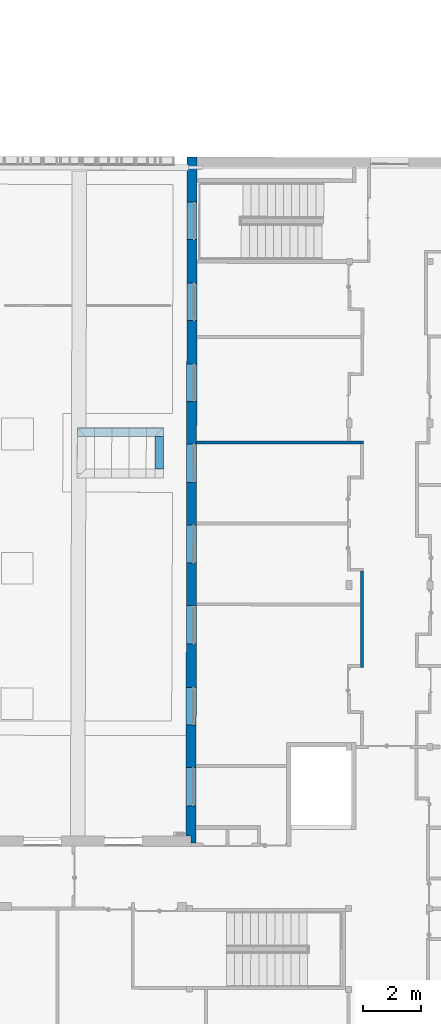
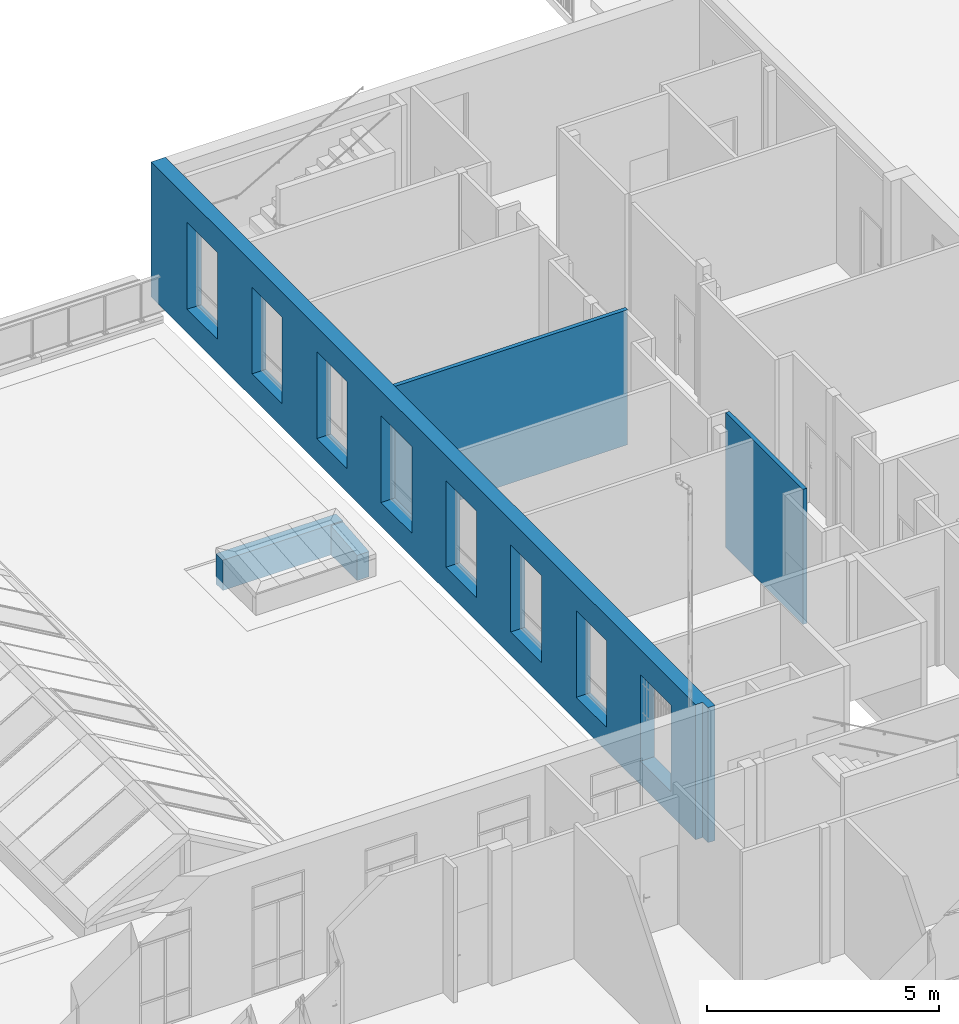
# One storey, part 79 of 101: 5 walls, 8 openings.
"""IFC2X3 building model written with IfcOpenShell, lengths in metres."""

import ifcopenshell
import ifcopenshell.guid

model = None  # the IFC model being written
_history = None  # IfcOwnerHistory: only IFC2X3 demands one
_inside = {}  # id of a spatial element -> (the spatial element, [elements in it])
_under = {}  # id of a project, library or spatial element -> (it, [spatial elements below it])
_declared = {}  # id of a project -> (the project, [libraries it declares])
_typed = {}  # id of a type object -> (the type object, [elements of that type])
_made_of = {}  # id of a material, layer set ... -> (it, [elements and type objects made of it])


def new_model(schema):
    """Start an empty IFC model of exactly this schema.

    Asked for "IFC4X3", IfcOpenShell would pick the latest addendum, in which some entities
    have other attributes; the version numbers below select the first issue.
    IFC2X3 requires an IfcOwnerHistory on every rooted entity: one is made here for all.
    """
    global model, _history
    if schema == "IFC4X3":
        model = ifcopenshell.file(schema_version=(4, 3, 0, 0))
    else:
        model = ifcopenshell.file(schema=schema)
    _inside.clear()
    _under.clear()
    _declared.clear()
    _typed.clear()
    _made_of.clear()
    _history = None
    if model.schema == "IFC2X3":
        org = make("IfcOrganization", Name="unknown")
        user = make(
            "IfcPersonAndOrganization",
            ThePerson=make("IfcPerson", FamilyName="unknown"),
            TheOrganization=org,
        )
        app = make(
            "IfcApplication",
            ApplicationDeveloper=org,
            Version="unknown",
            ApplicationFullName="unknown",
            ApplicationIdentifier="unknown",
        )
        _history = make(
            "IfcOwnerHistory",
            OwningUser=user,
            OwningApplication=app,
            ChangeAction="ADDED",
            CreationDate=0,
        )
    return model


def make(cls, **values):
    """One entity of the class cls with the attributes given. An attribute that is None is left unset."""
    return model.create_entity(
        cls, **{name: value for name, value in values.items() if value is not None}
    )


def entity(cls, *values):
    """Any entity or typed value of the class cls, its attributes in the order of the schema. None: left unset."""
    e = model.create_entity(cls)
    for i, value in enumerate(values):
        if value is not None:
            e[i] = value
    return e


def rooted(cls, **values):
    """An entity with a GlobalId (a new one), such as an element, a storey or a relation."""
    return make(cls, GlobalId=ifcopenshell.guid.new(), OwnerHistory=_history, **values)


def si_unit(unit_type, name, prefix=None):
    """IfcSIUnit, for example si_unit("LENGTHUNIT", "METRE", prefix="MILLI")."""
    return make("IfcSIUnit", UnitType=unit_type, Prefix=prefix, Name=name)


def converted_unit(unit_type, name, factor, base, dimensions=None, offset=None):
    """IfcConversionBasedUnit, such as the inch: factor (a typed value) times the base unit."""
    return make(
        "IfcConversionBasedUnit"
        if offset is None
        else "IfcConversionBasedUnitWithOffset",
        ConversionOffset=offset,
        Dimensions=None
        if dimensions is None
        else entity("IfcDimensionalExponents", *dimensions),
        UnitType=unit_type,
        Name=name,
        ConversionFactor=make(
            "IfcMeasureWithUnit", ValueComponent=factor, UnitComponent=base
        ),
    )


def derived_unit(unit_type, elements):
    """IfcDerivedUnit: a product of units, each with its exponent."""
    return make(
        "IfcDerivedUnit",
        Elements=[
            make("IfcDerivedUnitElement", Unit=unit, Exponent=power)
            for unit, power in elements
        ],
        UnitType=unit_type,
    )


def assignment(units):
    """IfcUnitAssignment: the units of a project."""
    return None if units is None else make("IfcUnitAssignment", Units=units)


def point(xyz):
    """IfcCartesianPoint."""
    return None if xyz is None else make("IfcCartesianPoint", Coordinates=xyz)


def direction(xyz):
    """IfcDirection."""
    return None if xyz is None else make("IfcDirection", DirectionRatios=xyz)


def frame(location, z_axis=None, x_axis=None):
    """IfcAxis2Placement3D, a coordinate frame: its origin and axes. An axis left out is left unset."""
    return make(
        "IfcAxis2Placement3D",
        Location=point(location),
        Axis=direction(z_axis),
        RefDirection=direction(x_axis),
    )


def frame_2d(location, x_axis=None):
    """IfcAxis2Placement2D, a coordinate frame in the plane: its origin and x axis."""
    return make(
        "IfcAxis2Placement2D", Location=point(location), RefDirection=direction(x_axis)
    )


def origin():
    """The frame at (0, 0, 0) with its axes left unset."""
    return frame((0.0, 0.0, 0.0))


def place(relative_to, where):
    """IfcLocalPlacement: puts the frame where relative to a parent placement (None: the world)."""
    return make(
        "IfcLocalPlacement", PlacementRelTo=relative_to, RelativePlacement=where
    )


def context(
    kind, dimensions, precision=None, world=None, true_north=None, identifier=None
):
    """IfcGeometricRepresentationContext, for example the 3D "Model" context."""
    return make(
        "IfcGeometricRepresentationContext",
        ContextIdentifier=identifier,
        ContextType=kind,
        CoordinateSpaceDimension=dimensions,
        Precision=precision,
        WorldCoordinateSystem=world,
        TrueNorth=true_north,
    )


def subcontext(parent, identifier, kind, view, scale=None):
    """IfcGeometricRepresentationSubContext, for example "Body" below "Model"."""
    return make(
        "IfcGeometricRepresentationSubContext",
        ContextIdentifier=identifier,
        ContextType=kind,
        ParentContext=parent,
        TargetScale=scale,
        TargetView=view,
    )


def project(units=None, contexts=None):
    """IfcProject with its units and contexts."""
    return rooted(
        "IfcProject",
        Name="project",
        RepresentationContexts=contexts,
        UnitsInContext=assignment(units),
    )


def spatial(cls, under=None, at=None, **own):
    """A site, building, storey or space (cls), placed at a placement, below another one or the project."""
    s = rooted(cls, ObjectPlacement=at, **own)
    if under is not None:
        _under.setdefault(under.id(), (under, []))[1].append(s)
    return s


def polyline(points):
    """IfcPolyline through the points."""
    return make("IfcPolyline", Points=[point(p) for p in points])


def profile(cls, at=None, kind="AREA", **sizes):
    """A parametric profile (cls). Its sizes go by their IFC names, for example OverallWidth=200.0."""
    return make(cls, ProfileType=kind, Position=at, **sizes)


def rectangle(**sizes):
    """IfcRectangleProfileDef."""
    return profile("IfcRectangleProfileDef", **sizes)


def outline(outer, holes=None, kind="AREA"):
    """IfcArbitraryClosedProfileDef: a profile drawn as a closed curve; with holes, ...WithVoids."""
    if holes is None:
        return make("IfcArbitraryClosedProfileDef", ProfileType=kind, OuterCurve=outer)
    return make(
        "IfcArbitraryProfileDefWithVoids",
        ProfileType=kind,
        OuterCurve=outer,
        InnerCurves=holes,
    )


def extrude(swept, where, along, depth):
    """IfcExtrudedAreaSolid: the profile swept, set in the frame where, extruded along a direction by depth."""
    return make(
        "IfcExtrudedAreaSolid",
        SweptArea=swept,
        Position=where,
        ExtrudedDirection=direction(along),
        Depth=depth,
    )


def clip(a, b, op="DIFFERENCE"):
    """IfcBooleanClippingResult: the solid a cut by the half space b."""
    return make(
        "IfcBooleanClippingResult", Operator=op, FirstOperand=a, SecondOperand=b
    )


def halfspace(plane, agree):
    """IfcHalfSpaceSolid: all space on one side of the plane z = 0 of the frame plane."""
    return make(
        "IfcHalfSpaceSolid",
        BaseSurface=make("IfcPlane", Position=plane),
        AgreementFlag=agree,
    )


def bounded_halfspace(plane, agree, where, boundary):
    """IfcPolygonalBoundedHalfSpace: a half space limited to a polygon's prism."""
    return make(
        "IfcPolygonalBoundedHalfSpace",
        BaseSurface=make("IfcPlane", Position=plane),
        AgreementFlag=agree,
        Position=where,
        PolygonalBoundary=boundary,
    )


def shape(context_of_items, identifier, shape_type, items):
    """IfcShapeRepresentation: the items that make up one representation, for example the "Body"."""
    return make(
        "IfcShapeRepresentation",
        ContextOfItems=context_of_items,
        RepresentationIdentifier=identifier,
        RepresentationType=shape_type,
        Items=items,
    )


def material(Name=None, Category=None):
    """IfcMaterial."""
    return make("IfcMaterial", Name=Name, Category=Category)


def layer(
    of_material, thickness, ventilated=None, Name=None, Category=None, Priority=None
):
    """IfcMaterialLayer: one layer of a wall or slab, of a material (None: an air gap)."""
    return make(
        "IfcMaterialLayer",
        Material=of_material,
        LayerThickness=thickness,
        IsVentilated=ventilated,
        Name=Name,
        Category=Category,
        Priority=Priority,
    )


def layer_set(layers, Name=None):
    """IfcMaterialLayerSet."""
    return make("IfcMaterialLayerSet", MaterialLayers=layers, LayerSetName=Name)


def layer_usage(for_layer_set, set_direction, sense, offset, extent=None):
    """IfcMaterialLayerSetUsage: how a layer set lies in its element."""
    return make(
        "IfcMaterialLayerSetUsage",
        ForLayerSet=for_layer_set,
        LayerSetDirection=set_direction,
        DirectionSense=sense,
        OffsetFromReferenceLine=offset,
        ReferenceExtent=extent,
    )


def made_of(thing, what):
    """Note that an element or type object is made of a material, layer set ...; save() writes the relation."""
    if what is not None:
        _made_of.setdefault(what.id(), (what, []))[1].append(thing)
    return thing


def type_object(cls, material=None, **own):
    """A type object (cls), such as IfcWallType, which elements share."""
    return made_of(rooted(cls, **own), material)


def element(
    cls,
    number,
    at=None,
    inside=None,
    cuts=None,
    type_object=None,
    material=None,
    context=None,
    identifier="Body",
    shape_type=None,
    held_by="IfcProductDefinitionShape",
    body=None,
    shapes=None,
    **own,
):
    """One element of the class cls, such as IfcWall. Its Tag is "e" and its number.

    at: its placement. inside: the storey or other place that contains it. cuts: it is an
    opening in that element (IfcRelVoidsElement). A single representation is given by context,
    identifier, shape_type and body (its items); several are given by shapes. held_by: the class
    of the entity that holds the representations. save() writes the other relations.
    """
    e = rooted(cls, Tag="e%d" % number, ObjectPlacement=at, **own)
    if body is not None:
        shapes = [shape(context, identifier, shape_type, body)]
    if shapes is not None:
        e.Representation = make(held_by, Representations=shapes)
    if inside is not None:
        _inside.setdefault(inside.id(), (inside, []))[1].append(e)
    if cuts is not None:
        rooted(
            "IfcRelVoidsElement", RelatingBuildingElement=cuts, RelatedOpeningElement=e
        )
    if type_object is not None:
        _typed.setdefault(type_object.id(), (type_object, []))[1].append(e)
    return made_of(e, material)


def aggregate(whole, parts):
    """IfcRelAggregates: a whole, such as a stair, and the parts it consists of."""
    return rooted("IfcRelAggregates", RelatingObject=whole, RelatedObjects=parts)


def save(model, path):
    """Write the relations noted so far, then the file.

    IfcRelAggregates (storeys below a building ...), IfcRelContainedInSpatialStructure (elements
    in a storey), IfcRelDefinesByType, IfcRelAssociatesMaterial and IfcRelDeclares: one each for
    every whole, place, type object, material and project.
    """
    for whole, parts in _under.values():
        aggregate(whole, parts)
    for where, things in _inside.values():
        rooted(
            "IfcRelContainedInSpatialStructure",
            RelatedElements=things,
            RelatingStructure=where,
        )
    for kind, things in _typed.values():
        rooted("IfcRelDefinesByType", RelatedObjects=things, RelatingType=kind)
    for what, things in _made_of.values():
        rooted("IfcRelAssociatesMaterial", RelatedObjects=things, RelatingMaterial=what)
    for by, libraries in _declared.values():
        rooted("IfcRelDeclares", RelatingContext=by, RelatedDefinitions=libraries)
    model.write(path)


model = new_model("IFC2X3")

# Units and contexts
model_context = context("Model", 3, precision=1e-05, world=origin(), true_north=direction((6.123233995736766e-17, 1.0)))
body_context = subcontext(model_context, "Body", "Model", "MODEL_VIEW")
ifc_project = project(units=[si_unit("LENGTHUNIT", "METRE"), si_unit("AREAUNIT", "SQUARE_METRE"), converted_unit("PLANEANGLEUNIT", "DEGREE", entity("IfcPlaneAngleMeasure", 0.017453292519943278), si_unit("PLANEANGLEUNIT", "RADIAN"), dimensions=[0, 0, 0, 0, 0, 0, 0]), derived_unit("THERMALTRANSMITTANCEUNIT", [(si_unit("MASSUNIT", "GRAM", prefix="KILO"), 1), (si_unit("THERMODYNAMICTEMPERATUREUNIT", "KELVIN"), -1), (si_unit("TIMEUNIT", "SECOND"), -3)])], contexts=[model_context])

# Site, building, storey
site_placement = place(None, frame((1253.6752467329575, 2072.143113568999, 91.49999999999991), z_axis=(0.0, 0.0, 1.0), x_axis=(0.7237211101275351, 0.6900925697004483, 0.0)))
site = spatial("IfcSite", under=ifc_project, at=site_placement, Name="Surface", CompositionType="ELEMENT")
building_placement = place(site_placement, origin())
building = spatial("IfcBuilding", under=site, at=building_placement, CompositionType="ELEMENT")
storey_placement = place(building_placement, origin())
storey = spatial("IfcBuildingStorey", under=building, at=storey_placement, Name="0- Rdc", CompositionType="ELEMENT", Elevation=-5.764692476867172e-13)

# Wall, openings
ifc_material_1 = material(Name="OMD_Béton blanc")
ifc_layer_1 = layer(ifc_material_1, 0.35)
ifc_layer_set_1 = layer_set([ifc_layer_1], Name="Mur de base:MUR 35")
ifc_layer_usage_1 = layer_usage(ifc_layer_set_1, "AXIS2", "NEGATIVE", 0.175)
wall_type_1 = type_object("IfcWallType", Name="Mur de base:MUR 35", PredefinedType="STANDARD", material=ifc_layer_set_1)
wall_1_placement = place(storey_placement, frame((191.75407598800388, 3.33643550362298, 0.0), z_axis=(0.0, 0.0, 1.0), x_axis=(-0.6913353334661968, -0.7225340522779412, 0.0)))
wall_1 = element("IfcWallStandardCase", 1, at=wall_1_placement, inside=storey, type_object=wall_type_1, material=ifc_layer_usage_1, Name="Mur de base:MUR 35", ObjectType="Mur de base:MUR 35", context=body_context, shape_type="SweptSolid", body=[
    extrude(outline(polyline([(-0.30214810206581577, 9.568132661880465), (-0.2907147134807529, -13.938193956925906), (0.05928532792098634, -13.938193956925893), (0.05756284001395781, -10.396867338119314), (0.05749960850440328, -10.266867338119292), (0.056283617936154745, -7.766867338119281), (0.05623497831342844, -7.66686733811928), (0.05450583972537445, -4.111867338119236), (0.05445720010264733, -4.0118673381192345), (0.05314393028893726, -1.3118673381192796), (0.05309529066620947, -1.211867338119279), (0.05178202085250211, 1.488132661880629), (0.05173338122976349, 1.5881326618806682), (0.04905820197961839, 7.088132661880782), (0.04900956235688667, 7.188132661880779), (0.04802947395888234, 9.203132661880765), (0.04796624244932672, 9.333132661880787), (0.04774006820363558, 9.798132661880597), (-0.12729156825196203, 9.798132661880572), (-0.12723320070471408, 9.56813266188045), (-0.30214810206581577, 9.568132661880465)])), frame((13.93822114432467, 0.12249416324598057, 0.0), z_axis=(0.0, 0.0, -1.0), x_axis=(-0.0004863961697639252, 0.9999998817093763, 0.0)), (0.0, 0.0, -1.0), 3.5499999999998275),
])
opening_1_placement = place(storey_placement, frame((191.75407598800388, 3.33643550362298, 0.0), z_axis=(0.0, 0.0, 1.0), x_axis=(-0.6913353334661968, -0.7225340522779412, 0.0)))
element("IfcOpeningElement", 2, at=opening_1_placement, cuts=wall_1, Name="Mur de base:MUR 35:1", ObjectType="Opening", context=body_context, shape_type="SweptSolid", body=[
    extrude(rectangle(XDim=2.2799999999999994, YDim=1.3296419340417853, at=frame_2d((-1.1102230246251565e-16, -2.1371793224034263e-14), x_axis=(1.0, 0.0))), frame((21.791198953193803, 0.17499999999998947, 1.76), z_axis=(0.0, -1.0, 0.0), x_axis=(0.0, 0.0, 1.0)), (0.0, 0.0, 1.0), 0.35000000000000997),
])
opening_2_placement = place(storey_placement, frame((191.75407598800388, 3.33643550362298, 0.0), z_axis=(0.0, 0.0, 1.0), x_axis=(-0.6913353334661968, -0.7225340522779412, 0.0)))
element("IfcOpeningElement", 3, at=opening_2_placement, cuts=wall_1, Name="Mur de base:MUR 35:2", ObjectType="Opening", context=body_context, shape_type="SweptSolid", body=[
    extrude(rectangle(XDim=2.2799999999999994, YDim=1.2996959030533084, at=frame_2d((-1.1102230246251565e-16, 1.6653345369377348e-16), x_axis=(1.0, 0.0))), frame((7.806171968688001, 0.17499999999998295, 1.76), z_axis=(0.0, -1.0, 0.0), x_axis=(0.0, 0.0, 1.0)), (0.0, 0.0, 1.0), 0.3500000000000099),
])
opening_3_placement = place(storey_placement, frame((191.75407598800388, 3.33643550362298, 0.0), z_axis=(0.0, 0.0, 1.0), x_axis=(-0.6913353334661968, -0.7225340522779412, 0.0)))
element("IfcOpeningElement", 4, at=opening_3_placement, cuts=wall_1, Name="Mur de base:MUR 35:3", ObjectType="Opening", context=body_context, shape_type="SweptSolid", body=[
    extrude(rectangle(XDim=2.2799999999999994, YDim=1.3296429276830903, at=frame_2d((-1.1102230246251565e-16, -1.865174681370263e-14), x_axis=(1.0, 0.0))), frame((13.391198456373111, 0.17499999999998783, 1.76), z_axis=(0.0, -1.0, 0.0), x_axis=(0.0, 0.0, 1.0)), (0.0, 0.0, 1.0), 0.3500000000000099),
])
opening_4_placement = place(storey_placement, frame((191.75407598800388, 3.33643550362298, 0.0), z_axis=(0.0, 0.0, 1.0), x_axis=(-0.6913353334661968, -0.7225340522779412, 0.0)))
element("IfcOpeningElement", 5, at=opening_4_placement, cuts=wall_1, Name="Mur de base:MUR 35:4", ObjectType="Opening", context=body_context, shape_type="SweptSolid", body=[
    extrude(rectangle(XDim=2.2799999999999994, YDim=1.3296425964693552, at=frame_2d((-1.1102230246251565e-16, 7.216449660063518e-16), x_axis=(1.0, 0.0))), frame((16.191198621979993, 0.17499999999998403, 1.76), z_axis=(0.0, -1.0, 0.0), x_axis=(0.0, 0.0, 1.0)), (0.0, 0.0, 1.0), 0.35000000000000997),
])
opening_5_placement = place(storey_placement, frame((191.75407598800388, 3.33643550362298, 0.0), z_axis=(0.0, 0.0, 1.0), x_axis=(-0.6913353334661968, -0.7225340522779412, 0.0)))
element("IfcOpeningElement", 6, at=opening_5_placement, cuts=wall_1, Name="Mur de base:MUR 35:5", ObjectType="Opening", context=body_context, shape_type="SweptSolid", body=[
    extrude(rectangle(XDim=2.2799999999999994, YDim=1.2996959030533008, at=frame_2d((-1.1102230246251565e-16, 8.326672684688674e-16), x_axis=(1.0, 0.0))), frame((19.006171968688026, 0.17499999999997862, 1.76), z_axis=(0.0, -1.0, 0.0), x_axis=(0.0, 0.0, 1.0)), (0.0, 0.0, 1.0), 0.3500000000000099),
])
opening_6_placement = place(storey_placement, frame((191.75407598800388, 3.33643550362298, 0.0), z_axis=(0.0, 0.0, 1.0), x_axis=(-0.6913353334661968, -0.7225340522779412, 0.0)))
element("IfcOpeningElement", 7, at=opening_6_placement, cuts=wall_1, Name="Mur de base:MUR 35:6", ObjectType="Opening", context=body_context, shape_type="SweptSolid", body=[
    extrude(rectangle(XDim=2.2799999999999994, YDim=1.2996959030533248, at=frame_2d((-1.1102230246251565e-16, 1.609823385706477e-15), x_axis=(1.0, 0.0))), frame((5.006171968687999, 0.17499999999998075, 1.76), z_axis=(0.0, -1.0, 0.0), x_axis=(0.0, 0.0, 1.0)), (0.0, 0.0, 1.0), 0.3500000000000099),
])
opening_7_placement = place(storey_placement, frame((191.75407598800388, 3.33643550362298, 0.0), z_axis=(0.0, 0.0, 1.0), x_axis=(-0.6913353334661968, -0.7225340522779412, 0.0)))
element("IfcOpeningElement", 8, at=opening_7_placement, cuts=wall_1, Name="Mur de base:MUR 35:7", ObjectType="Opening", context=body_context, shape_type="SweptSolid", body=[
    extrude(rectangle(XDim=2.2799999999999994, YDim=1.3296432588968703, at=frame_2d((-1.1102230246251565e-16, 1.8762769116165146e-14), x_axis=(1.0, 0.0))), frame((10.591198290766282, 0.17499999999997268, 1.76), z_axis=(0.0, -1.0, 0.0), x_axis=(0.0, 0.0, 1.0)), (0.0, 0.0, 1.0), 0.35000000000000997),
])
opening_8_placement = place(storey_placement, frame((191.75407598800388, 3.33643550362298, 0.0), z_axis=(0.0, 0.0, 1.0), x_axis=(-0.6913353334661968, -0.7225340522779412, 0.0)))
element("IfcOpeningElement", 9, at=opening_8_placement, cuts=wall_1, Name="Mur de base:MUR 35:8", ObjectType="Opening", context=body_context, shape_type="SweptSolid", body=[
    extrude(rectangle(XDim=2.2799999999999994, YDim=1.2996959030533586, at=frame_2d((-1.1102230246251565e-16, 1.8540724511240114e-14), x_axis=(1.0, 0.0))), frame((2.2064760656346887, 0.17499999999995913, 1.76), z_axis=(0.0, -1.0, 0.0), x_axis=(0.0, 0.0, 1.0)), (0.0, 0.0, 1.0), 0.3500000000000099),
])

# Walls
ifc_layer_2 = layer(ifc_material_1, 0.1)
ifc_layer_set_2 = layer_set([ifc_layer_2], Name="Mur de base:MUR 10")
ifc_layer_usage_2 = layer_usage(ifc_layer_set_2, "AXIS2", "NEGATIVE", 0.05)
wall_type_2 = type_object("IfcWallType", Name="Mur de base:MUR 10", PredefinedType="STANDARD", material=ifc_layer_set_2)
wall_2_placement = place(storey_placement, frame((189.22895195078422, -7.9125986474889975, 0.0), z_axis=(0.0, 0.0, 1.0), x_axis=(-0.7228702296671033, 0.6909838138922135, 0.0)))
element("IfcWallStandardCase", 10, at=wall_2_placement, inside=storey, type_object=wall_type_2, material=ifc_layer_usage_2, Name="Mur de base:MUR 10", ObjectType="Mur de base:MUR 10", context=body_context, shape_type="SweptSolid", body=[
    extrude(outline(polyline([(-0.040926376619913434, -3.9695441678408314), (0.0590736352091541, -3.9695441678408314), (0.05631217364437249, 1.7078468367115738), (0.05626353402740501, 1.807846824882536), (-0.04373645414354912, 1.807798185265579), (-0.04351757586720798, 1.35779823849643), (-0.04346893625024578, 1.257798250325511), (-0.040926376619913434, -3.9695441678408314)])), frame((1.8078192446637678, -0.007142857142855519, 0.0), z_axis=(0.0, 0.0, 1.0), x_axis=(0.0004863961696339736, 0.999999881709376, 0.0)), (0.0, 0.0, 1.0), 3.5499999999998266),
])
ifc_layer_usage_3 = layer_usage(ifc_layer_set_2, "AXIS2", "NEGATIVE", 0.05)
wall_3_placement = place(storey_placement, frame((186.1179304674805, -11.094821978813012, 0.0), z_axis=(0.0, 0.0, 1.0), x_axis=(-0.6909838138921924, -0.7228702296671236, 0.0)))
element("IfcWallStandardCase", 11, at=wall_3_placement, inside=storey, type_object=wall_type_2, material=ifc_layer_usage_3, Name="Mur de base:MUR 10", ObjectType="Mur de base:MUR 10", context=body_context, shape_type="SweptSolid", body=[
    extrude(rectangle(XDim=3.329999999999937, YDim=0.10000000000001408, at=frame_2d((1.6649999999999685, -1.1518563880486e-15), x_axis=(-1.0, 0.0))), origin(), (0.0, 0.0, 1.0), 3.5499999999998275),
])
ifc_material_2 = material(Name="Maçonnerie - Isolant")
ifc_layer_3 = layer(ifc_material_2, 0.1)
ifc_material_3 = material(Name="Béton - Béton coulé sur place")
ifc_layer_4 = layer(ifc_material_3, 0.2)
ifc_layer_set_3 = layer_set([ifc_layer_3, ifc_layer_4], Name="Mur de base:BA 20 + isol")
ifc_layer_usage_4 = layer_usage(ifc_layer_set_3, "AXIS2", "POSITIVE", -0.15000000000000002)
wall_type_3 = type_object("IfcWallType", Name="Mur de base:BA 20 + isol", PredefinedType="STANDARD", material=ifc_layer_set_3)
wall_4_placement = place(storey_placement, frame((184.4646644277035, -2.872001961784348, -0.53), z_axis=(0.0, 0.0, 1.0), x_axis=(-0.7228702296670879, 0.6909838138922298, 0.0)))
element("IfcWallStandardCase", 12, at=wall_4_placement, inside=storey, type_object=wall_type_3, material=ifc_layer_usage_4, Name="Mur de base:BA 20 + isol", ObjectType="Mur de base:BA 20 + isol", context=body_context, shape_type="Clipping", body=[
    clip(clip(extrude(rectangle(XDim=2.9856039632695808, YDim=0.2999999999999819, at=frame_2d((1.4928019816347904, -2.8727020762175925e-15), x_axis=(-1.0, 0.0))), origin(), (0.0, 0.0, 1.0), 0.8017517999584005), bounded_halfspace(frame((0.0, -0.05000000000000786, 0.006521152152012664), z_axis=(0.0, 0.0, 1.0), x_axis=(-0.7228702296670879, -0.6909838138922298, 0.0)), True, frame((0.0, -0.05000000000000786, 0.006521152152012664)), polyline([(0.0, 0.0), (2.9856039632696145, 0.0), (2.985603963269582, 0.19999999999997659), (0.0, 0.19999999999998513), (0.0, 0.0)]))), bounded_halfspace(frame((0.0, -0.1500000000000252, 0.8014776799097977), z_axis=(0.0, 0.0, 1.0), x_axis=(0.0, 1.0, 0.0)), False, frame((0.0, -0.1500000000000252, 0.8014776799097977)), polyline([(0.0, 0.0), (2.9856039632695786, 0.0), (2.985603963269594, 0.100000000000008), (0.0, 0.100000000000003), (0.0, 0.0)]))),
])
ifc_layer_usage_5 = layer_usage(ifc_layer_set_3, "AXIS2", "NEGATIVE", 0.15000000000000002)
wall_5_placement = place(storey_placement, frame((183.4735558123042, -3.691764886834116, -0.52572165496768), z_axis=(0.0, 0.0, 1.0), x_axis=(0.6909838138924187, 0.7228702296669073, 0.0)))
element("IfcWallStandardCase", 13, at=wall_5_placement, inside=storey, type_object=wall_type_3, material=ifc_layer_usage_5, Name="Mur de base:BA 20 + isol", ObjectType="Mur de base:BA 20 + isol", context=body_context, shape_type="Clipping", body=[
    clip(clip(extrude(rectangle(XDim=1.1274222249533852, YDim=0.2999999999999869, at=frame_2d((0.5637111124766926, 2.67841304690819e-15), x_axis=(-1.0, 0.0))), origin(), (0.0, 0.0, 1.0), 0.7698699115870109), halfspace(frame((1.1274222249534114, -0.1500000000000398, 0.0), z_axis=(-0.0079759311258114, 0.0, -0.999968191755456), x_axis=(0.0, 1.0, 0.0)), False)), halfspace(frame((0.0, -0.15000000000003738, 0.6712332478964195), z_axis=(-0.08715574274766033, 0.0, 0.9961946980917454), x_axis=(0.0, 1.0, 0.0)), False)),
])

save(model, "model.ifc")
